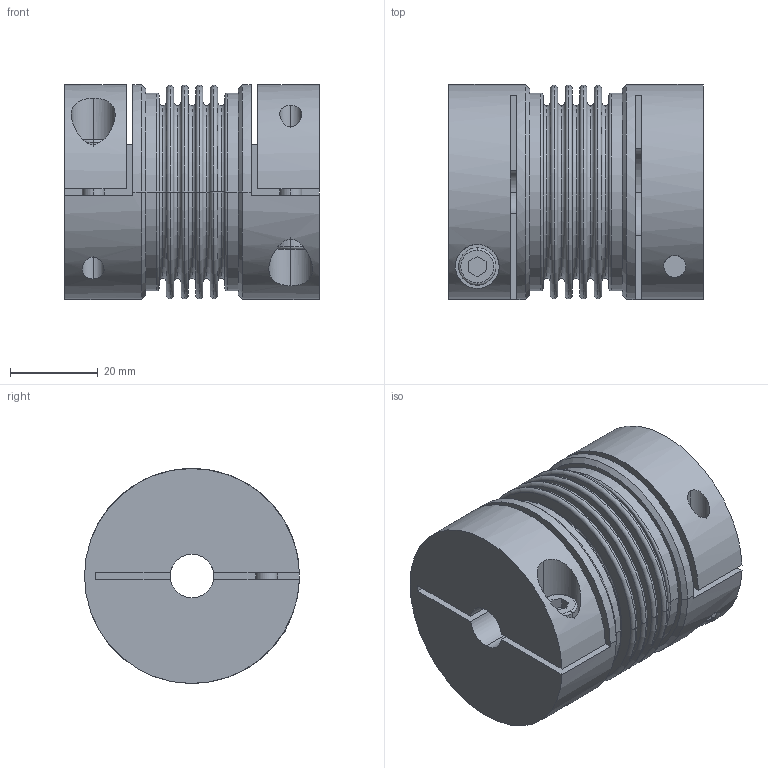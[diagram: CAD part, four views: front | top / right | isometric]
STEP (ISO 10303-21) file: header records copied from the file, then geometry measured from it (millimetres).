
FILE_DESCRIPTION(('STEP AP214'),'1');
FILE_NAME('BKL_15_10_20_1.stp','2022-07-25T06:37:33',('R+W Antriebselemente GmbH'),(''),'Spatial InterOp 3D',' ',' ');
FILE_SCHEMA(('AUTOMOTIVE_DESIGN'));
Length unit declared in the file: millimetre
Products named in the file (1): 2022_07_25__08-37-33-283
Bounding box: 58 x 49 x 49 mm (x, y, z)
Volume: 74558.9 mm3; surface area: 28058.9 mm2
Topology: 1 solids, 1 shells, 132 faces, 300 edges, 190 vertices
Faces by surface type: plane 50, torus 44, cylinder 34, cone 4
Entity records: 5636 total; most frequent: CARTESIAN_POINT 923, DIRECTION 738, ORIENTED_EDGE 600, AXIS2_PLACEMENT_3D 313, EDGE_CURVE 300, PRESENTATION_STYLE_ASSIGNMENT 257, COLOUR_RGB 257, VERTEX_POINT 190
